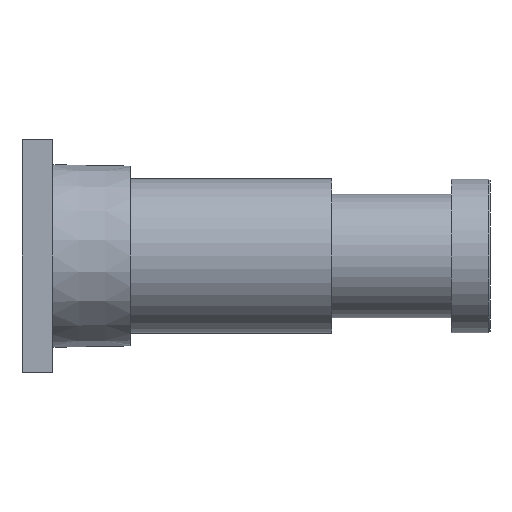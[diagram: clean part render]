
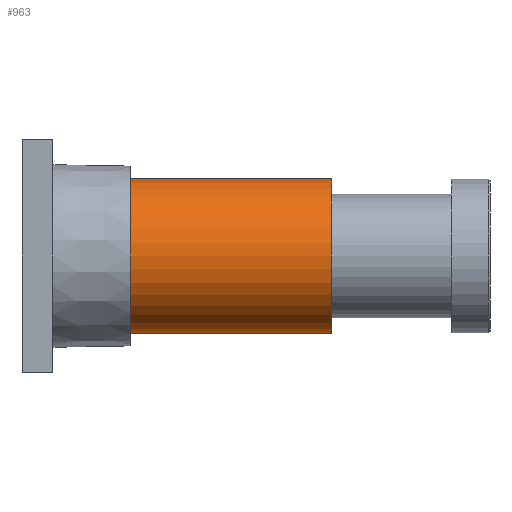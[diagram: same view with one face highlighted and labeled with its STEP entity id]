
A CAD part, front view. The second image highlights one B-rep face of the part: STEP entity #963.
In plain terms, the highlighted cylindrical face has radius 50 mm (diameter 100 mm), a partial arc.
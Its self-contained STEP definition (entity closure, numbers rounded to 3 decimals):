
#17 = EDGE_LOOP ( 'NONE', ( #1124, #1150, #653, #554 ) ) ;
#34 = VECTOR ( 'NONE', #866, 1000. ) ;
#57 = LINE ( 'NONE', #936, #34 ) ;
#85 = CARTESIAN_POINT ( 'NONE',  ( 180., 0., 0. ) ) ;
#132 = LINE ( 'NONE', #1061, #401 ) ;
#180 = CIRCLE ( 'NONE', #546, 50. ) ;
#202 = FACE_OUTER_BOUND ( 'NONE', #17, .T. ) ;
#334 = CARTESIAN_POINT ( 'NONE',  ( 180., 0., 50. ) ) ;
#371 = EDGE_CURVE ( 'NONE', #938, #383, #132, .T. ) ;
#383 = VERTEX_POINT ( 'NONE', #1086 ) ;
#389 = CARTESIAN_POINT ( 'NONE',  ( 180., 0., -50. ) ) ;
#401 = VECTOR ( 'NONE', #1059, 1000. ) ;
#519 = DIRECTION ( 'NONE',  ( 0., 0., 1. ) ) ;
#528 = DIRECTION ( 'NONE',  ( -1., 0., 0. ) ) ;
#539 = CARTESIAN_POINT ( 'NONE',  ( 180., 0., 0. ) ) ;
#543 = CARTESIAN_POINT ( 'NONE',  ( 50., 0., 0. ) ) ;
#546 = AXIS2_PLACEMENT_3D ( 'NONE', #543, #547, #571 ) ;
#547 = DIRECTION ( 'NONE',  ( 1., 0., 0. ) ) ;
#549 = EDGE_CURVE ( 'NONE', #383, #856, #180, .T. ) ;
#554 = ORIENTED_EDGE ( 'NONE', *, *, #549, .T. ) ;
#571 = DIRECTION ( 'NONE',  ( 0., 0., 1. ) ) ;
#575 = EDGE_CURVE ( 'NONE', #885, #938, #1154, .T. ) ;
#622 = AXIS2_PLACEMENT_3D ( 'NONE', #539, #528, #519 ) ;
#653 = ORIENTED_EDGE ( 'NONE', *, *, #371, .T. ) ;
#727 = AXIS2_PLACEMENT_3D ( 'NONE', #85, #740, #733 ) ;
#733 = DIRECTION ( 'NONE',  ( 0., 0., 1. ) ) ;
#740 = DIRECTION ( 'NONE',  ( -1., 0., 0. ) ) ;
#758 = CARTESIAN_POINT ( 'NONE',  ( 50., 0., -50. ) ) ;
#856 = VERTEX_POINT ( 'NONE', #758 ) ;
#866 = DIRECTION ( 'NONE',  ( -1., 0., 0. ) ) ;
#885 = VERTEX_POINT ( 'NONE', #389 ) ;
#910 = CYLINDRICAL_SURFACE ( 'NONE', #622, 50. ) ;
#936 = CARTESIAN_POINT ( 'NONE',  ( 180., 0., -50. ) ) ;
#938 = VERTEX_POINT ( 'NONE', #334 ) ;
#963 = ADVANCED_FACE ( 'NONE', ( #202 ), #910, .T. ) ;
#1059 = DIRECTION ( 'NONE',  ( -1., 0., 0. ) ) ;
#1061 = CARTESIAN_POINT ( 'NONE',  ( 180., 0., 50. ) ) ;
#1086 = CARTESIAN_POINT ( 'NONE',  ( 50., 0., 50. ) ) ;
#1114 = EDGE_CURVE ( 'NONE', #885, #856, #57, .T. ) ;
#1124 = ORIENTED_EDGE ( 'NONE', *, *, #1114, .F. ) ;
#1150 = ORIENTED_EDGE ( 'NONE', *, *, #575, .T. ) ;
#1154 = CIRCLE ( 'NONE', #727, 50. ) ;
